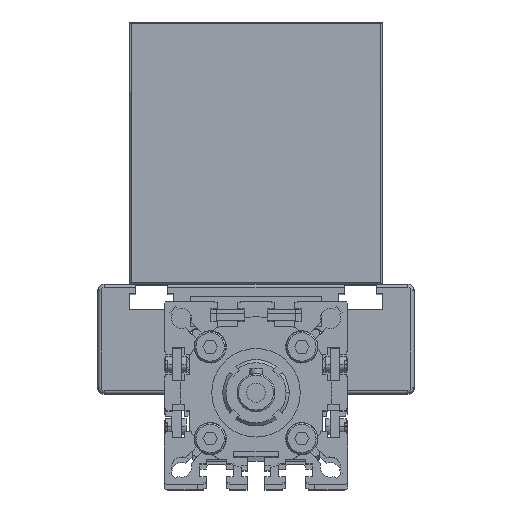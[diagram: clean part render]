
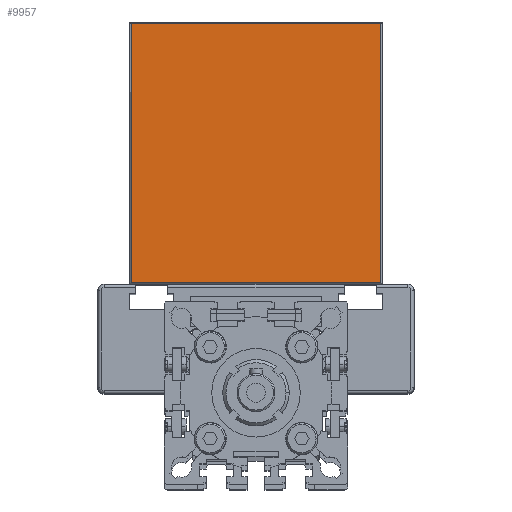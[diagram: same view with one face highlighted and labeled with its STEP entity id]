
A CAD part, top view. The second image highlights one B-rep face of the part: STEP entity #9957.
In plain terms, the highlighted planar face has unit normal (0, 0, 1) as drawn and (0, 0, -1) by its records, which use the part's own axes.
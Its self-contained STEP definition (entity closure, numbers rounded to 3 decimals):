
#1216 = LINE ( 'NONE', #18744, #27940 ) ;
#4294 = PLANE ( 'NONE',  #23627 ) ;
#5845 = ORIENTED_EDGE ( 'NONE', *, *, #37937, .T. ) ;
#5909 = CARTESIAN_POINT ( 'NONE',  ( 0.5, 82.5, -65. ) ) ;
#7714 = VECTOR ( 'NONE', #13693, 1000. ) ;
#9957 = ADVANCED_FACE ( 'NONE', ( #18939 ), #4294, .F. ) ;
#10671 = ORIENTED_EDGE ( 'NONE', *, *, #21956, .T. ) ;
#11486 = LINE ( 'NONE', #34984, #34668 ) ;
#12955 = CARTESIAN_POINT ( 'NONE',  ( 79.5, 0.5, -65. ) ) ;
#13186 = EDGE_CURVE ( 'NONE', #16835, #17711, #1216, .T. ) ;
#13693 = DIRECTION ( 'NONE',  ( -1., 0., 0. ) ) ;
#16600 = CARTESIAN_POINT ( 'NONE',  ( 0., 0.5, -65. ) ) ;
#16835 = VERTEX_POINT ( 'NONE', #34201 ) ;
#17711 = VERTEX_POINT ( 'NONE', #5909 ) ;
#18744 = CARTESIAN_POINT ( 'NONE',  ( 0.5, 0., -65. ) ) ;
#18939 = FACE_OUTER_BOUND ( 'NONE', #21520, .T. ) ;
#19024 = EDGE_CURVE ( 'NONE', #17711, #23295, #11486, .T. ) ;
#19663 = DIRECTION ( 'NONE',  ( 0., -1., 0. ) ) ;
#20331 = DIRECTION ( 'NONE',  ( 1., 0., 0. ) ) ;
#21520 = EDGE_LOOP ( 'NONE', ( #5845, #10671, #30596, #36548 ) ) ;
#21956 = EDGE_CURVE ( 'NONE', #35860, #16835, #37608, .T. ) ;
#22190 = DIRECTION ( 'NONE',  ( 0., 1., 0. ) ) ;
#23295 = VERTEX_POINT ( 'NONE', #26312 ) ;
#23332 = LINE ( 'NONE', #26230, #26777 ) ;
#23627 = AXIS2_PLACEMENT_3D ( 'NONE', #30496, #30110, #36096 ) ;
#26230 = CARTESIAN_POINT ( 'NONE',  ( 79.5, 0., -65. ) ) ;
#26312 = CARTESIAN_POINT ( 'NONE',  ( 79.5, 82.5, -65. ) ) ;
#26777 = VECTOR ( 'NONE', #19663, 1000. ) ;
#27940 = VECTOR ( 'NONE', #22190, 1000. ) ;
#30110 = DIRECTION ( 'NONE',  ( 0., 0., 1. ) ) ;
#30496 = CARTESIAN_POINT ( 'NONE',  ( 80., 0., -65. ) ) ;
#30596 = ORIENTED_EDGE ( 'NONE', *, *, #13186, .T. ) ;
#34201 = CARTESIAN_POINT ( 'NONE',  ( 0.5, 0.5, -65. ) ) ;
#34668 = VECTOR ( 'NONE', #20331, 1000. ) ;
#34984 = CARTESIAN_POINT ( 'NONE',  ( 80., 82.5, -65. ) ) ;
#35860 = VERTEX_POINT ( 'NONE', #12955 ) ;
#36096 = DIRECTION ( 'NONE',  ( 0., -1., 0. ) ) ;
#36548 = ORIENTED_EDGE ( 'NONE', *, *, #19024, .T. ) ;
#37608 = LINE ( 'NONE', #16600, #7714 ) ;
#37937 = EDGE_CURVE ( 'NONE', #23295, #35860, #23332, .T. ) ;
